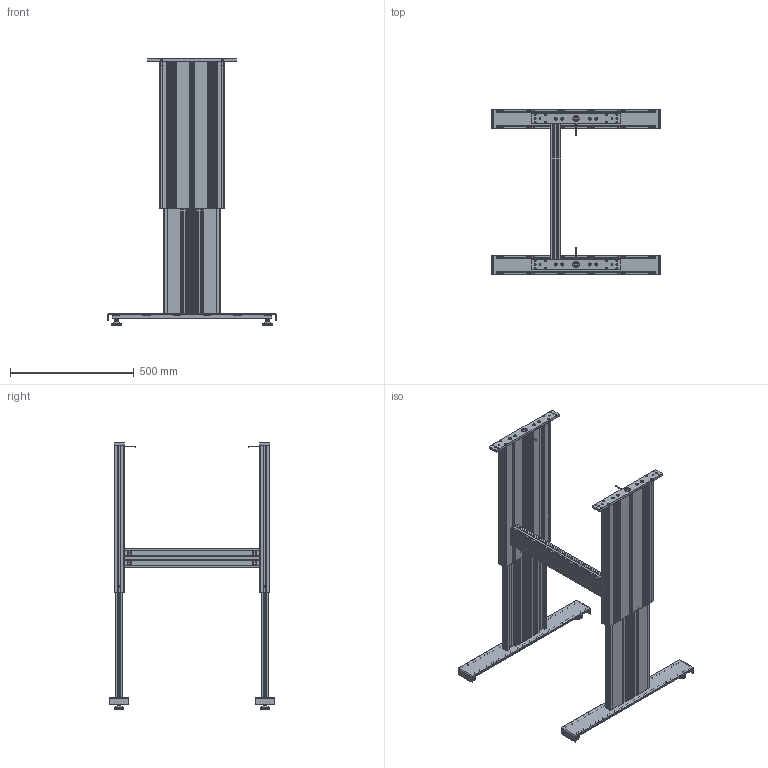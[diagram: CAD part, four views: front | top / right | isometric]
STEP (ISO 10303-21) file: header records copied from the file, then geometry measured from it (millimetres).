
FILE_DESCRIPTION(/* description */ ('Unknown'),/* implementation_level */ '2;1');
FILE_NAME(/* name */ '108.00181 Untergestell TT-2 1440 590_ausgefahren',/* time_stamp */ '2017-11-24T15:20:29+01:00',/* author */ ('Unknown'),/* organization */ ('Unknown'),/* preprocessor_version */ 'ST-DEVELOPER v16.7',/* originating_system */ 'DEX',/* authorisation */ $);
FILE_SCHEMA (('TECHNICAL_DATA_PACKAGING','AUTOMOTIVE_DESIGN {1 0 10303 214 3 1 1}'));
Products named in the file (30): 108.00181; 106.00315_oa_0; 119.00201; 119.00152; 124.00004; 142.00188; 142.00166; 142.00031; 126.00102; 107.00027_oa_1; 115.00007_oa_2; 125.00021; 125.00033; 113.00002_70mm; 106.00315_oa_3; 107.00027_oa_4; 115.00007_oa_5; 115.00091; 119.00171; 142.00207; 127.00515; 127.00520; 127.00556; 127.00557; 127.00520_461_469_Kehlnaht 1_oa_6; 113.00095; 113.00099; 113.00096; 113.00097; 113.00098
Assembly tree (52 placements, depth 5):
  108.00181
    106.00315_oa_0
      119.00201
      119.00152
      124.00004
      142.00188  x2
      142.00166  x4
      142.00031
      126.00102
      107.00027_oa_1
        115.00007_oa_2
        125.00021
        125.00033
      113.00002_70mm
    106.00315_oa_3
      119.00201
      119.00152
      124.00004
      142.00188  x2
      142.00166  x4
      142.00031
      126.00102
      107.00027_oa_4
        115.00007_oa_5
        125.00021
        125.00033
      113.00002_70mm
    115.00091
      119.00171
      142.00207  x4
    127.00515  x2
      127.00520
        127.00556
        127.00557
        127.00520_461_469_Kehlnaht 1_oa_6
      113.00095
        113.00099
        113.00096
          113.00097
          113.00098
Bounding box: 680 x 670 x 1076.5 mm (x, y, z)
Volume: 6624001.9 mm3; surface area: 4771181.7 mm2
Topology: 73 solids, 81 shells, 4900 faces, 13928 edges, 9258 vertices
Faces by surface type: plane 3044, cylinder 1552, cone 196, torus 76, bspline 24, sphere 8
Full cylindrical faces by diameter (mm): 1.8 x4, 2.2 x2, 2.78 x2, 3.242 x4, 3.5 x2, 4 x6, 4.1 x2, 4.2 x2, 5 x12, 5.5 x8, 6.6 x8, 6.647 x16, 6.917 x4, 7.5 x4, 8 x18, 8.376 x6, 8.5 x20, 8.7 x8, 9 x2, 10 x8, 11.3 x8, 12 x6, 12.5 x10, 13 x4, 13.5 x6, 13.7 x2, 13.9 x4, 18 x16, 25 x10, 27.2 x4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
Entity records: 85503 total; most frequent: CARTESIAN_POINT 14627, ORIENTED_EDGE 13082, DIRECTION 12735, EDGE_CURVE 6541, LINE 4481, VECTOR 4481, VERTEX_POINT 4431, AXIS2_PLACEMENT_3D 4127
